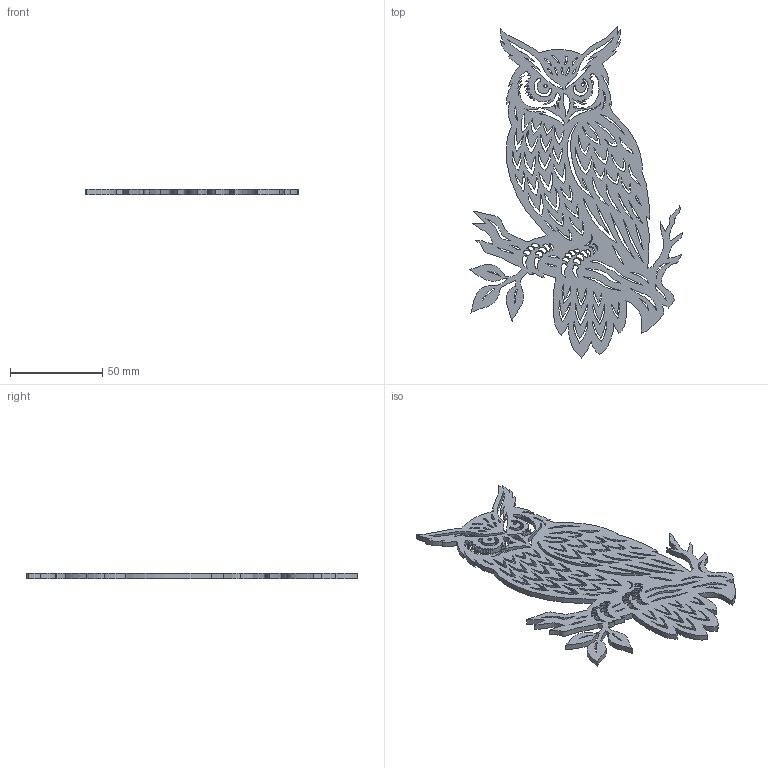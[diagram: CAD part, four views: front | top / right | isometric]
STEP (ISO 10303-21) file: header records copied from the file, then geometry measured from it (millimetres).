
FILE_DESCRIPTION(('STEP AP214'),'1');
FILE_NAME('owl-4.stp','2026-06-23T14:31:27',(' '),(' '),'Spatial InterOp 3D',' ',' ');
FILE_SCHEMA(('AUTOMOTIVE_DESIGN { 1 0 10303 214 1 1 1 1 }'));
Length unit declared in the file: millimetre
Products named in the file (1): 1782277794
Bounding box: 115.91 x 180 x 3 mm (x, y, z)
Volume: 26600 mm3; surface area: 31532.9 mm2
Topology: 1 solids, 1 shells, 433 faces, 1293 edges, 862 vertices
Faces by surface type: extrusion 431, plane 2
Entity records: 25056 total; most frequent: CARTESIAN_POINT 11191, ORIENTED_EDGE 2582, EDGE_CURVE 1291, B_SPLINE_CURVE_WITH_KNOTS 1287, DIRECTION 866, VERTEX_POINT 862, VECTOR 860, EDGE_LOOP 663
